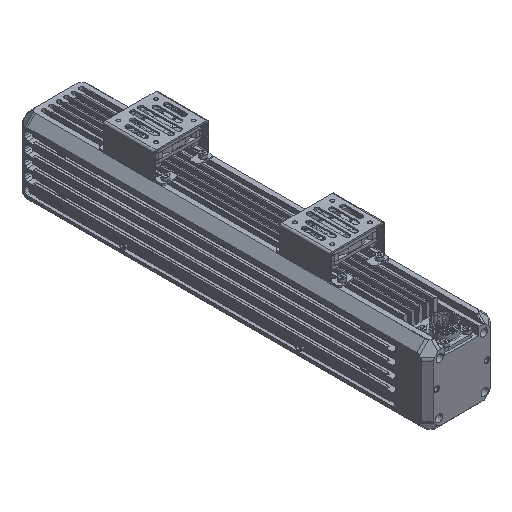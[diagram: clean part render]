
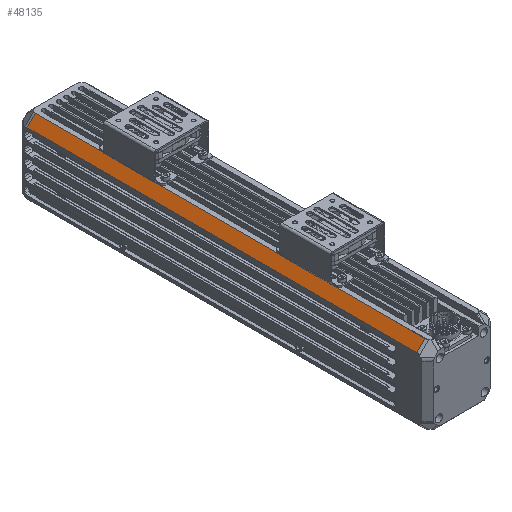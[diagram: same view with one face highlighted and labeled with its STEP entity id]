
A CAD part, isometric view. The second image highlights one B-rep face of the part: STEP entity #48135.
In plain terms, the highlighted planar face has unit normal (-0.707, 0, 0.707).
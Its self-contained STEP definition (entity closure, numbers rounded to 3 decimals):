
#2934=DIRECTION('',(0.,1.,0.));
#2935=VECTOR('',#2934,305.758);
#2936=CARTESIAN_POINT('',(-22.,-150.,0.));
#2937=LINE('',#2936,#2935);
#2942=CARTESIAN_POINT('',(-22.,155.758,0.));
#3710=DIRECTION('',(-0.707,0.,-0.707));
#3711=VECTOR('',#3710,0.083);
#3712=CARTESIAN_POINT('',(-22.,-150.,0.));
#3713=LINE('',#3712,#3711);
#4258=DIRECTION('',(-0.707,0.,-0.707));
#4259=VECTOR('',#4258,9.817);
#4260=CARTESIAN_POINT('',(-22.059,-175.758,
-0.059));
#4261=LINE('',#4260,#4259);
#4274=CARTESIAN_POINT('',(-29.,-175.758,-7.));
#4280=DIRECTION('',(0.,1.,0.));
#4281=VECTOR('',#4280,331.515);
#4282=CARTESIAN_POINT('',(-29.,-175.758,-7.));
#4283=LINE('',#4282,#4281);
#4288=DIRECTION('',(0.,-1.,0.));
#4289=VECTOR('',#4288,25.758);
#4290=CARTESIAN_POINT('',(-22.059,-150.,-0.059));
#4291=LINE('',#4290,#4289);
#4686=CARTESIAN_POINT('',(-29.,155.758,-7.));
#12964=DIRECTION('',(0.707,0.,0.707));
#12965=VECTOR('',#12964,9.899);
#12966=CARTESIAN_POINT('',(-29.,155.758,-7.));
#12967=LINE('',#12966,#12965);
#33663=VERTEX_POINT('',#4686);
#33664=VERTEX_POINT('',#2942);
#34364=VERTEX_POINT('',#4274);
#34432=CARTESIAN_POINT('',(-22.059,-175.758,
-0.059));
#34433=VERTEX_POINT('',#34432);
#39927=CARTESIAN_POINT('',(-22.,-150.,0.));
#39928=VERTEX_POINT('',#39927);
#40032=CARTESIAN_POINT('',(-22.059,-150.,-0.059));
#40034=VERTEX_POINT('',#40032);
#48119=CARTESIAN_POINT('',(-29.,-150.,-7.));
#48120=DIRECTION('',(-0.707,0.,0.707));
#48121=DIRECTION('',(0.707,0.,0.707));
#48122=AXIS2_PLACEMENT_3D('',#48119,#48120,#48121);
#48123=PLANE('',#48122);
#48124=ORIENTED_EDGE('',*,*,#46912,.T.);
#48126=ORIENTED_EDGE('',*,*,#48125,.T.);
#48127=ORIENTED_EDGE('',*,*,#48102,.T.);
#48129=ORIENTED_EDGE('',*,*,#48128,.T.);
#48131=ORIENTED_EDGE('',*,*,#48130,.T.);
#48132=ORIENTED_EDGE('',*,*,#46000,.F.);
#48133=EDGE_LOOP('',(#48124,#48126,#48127,#48129,#48131,#48132));
#48134=FACE_OUTER_BOUND('',#48133,.F.);
#46000=EDGE_CURVE('',#39928,#33664,#2937,.T.);
#46912=EDGE_CURVE('',#39928,#40034,#3713,.T.);
#48102=EDGE_CURVE('',#34433,#34364,#4261,.T.);
#48125=EDGE_CURVE('',#40034,#34433,#4291,.T.);
#48128=EDGE_CURVE('',#34364,#33663,#4283,.T.);
#48130=EDGE_CURVE('',#33663,#33664,#12967,.T.);
#48135=ADVANCED_FACE('',(#48134),#48123,.T.);
